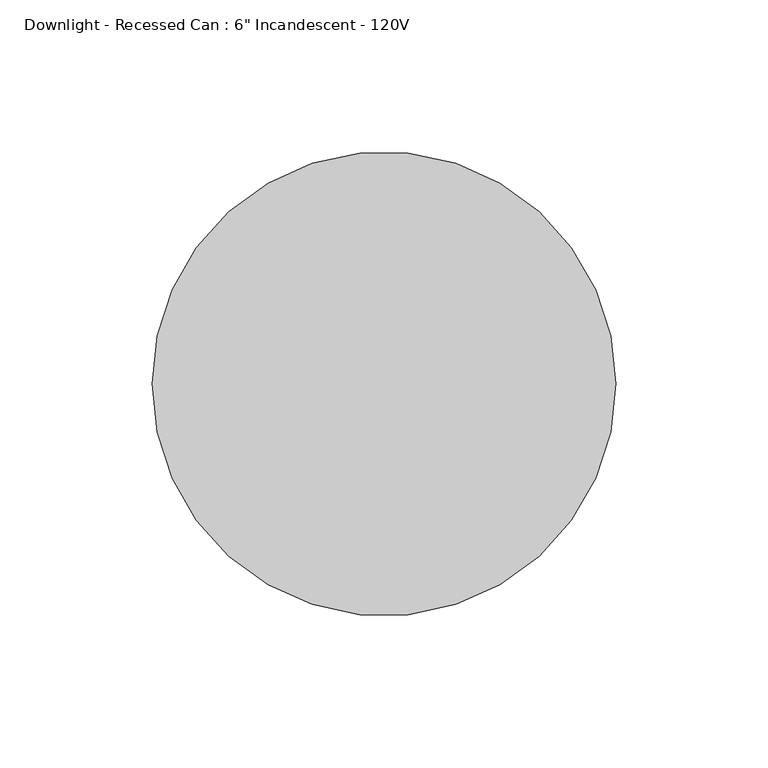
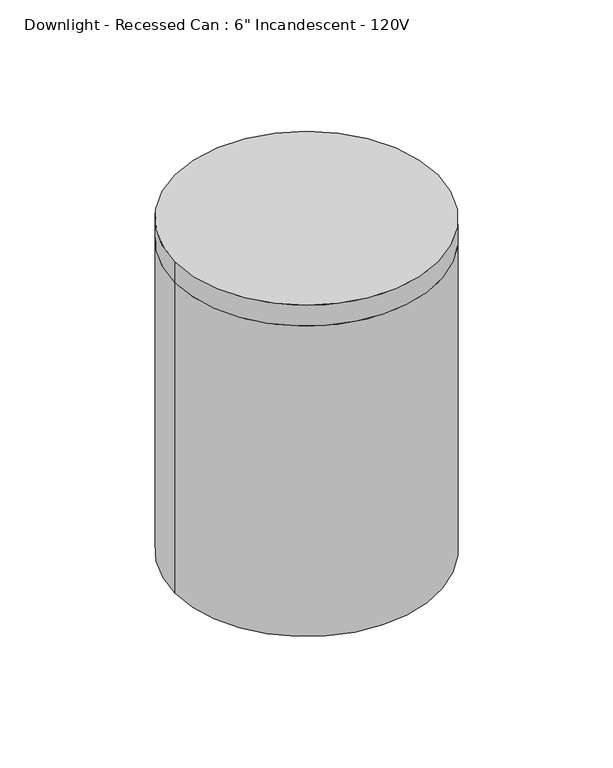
"""IFC4 building model written with IfcOpenShell, lengths in millimetres: light fixture geometry."""

from ifc_helpers import new_model, si_unit, point, frame, origin, origin_2d, place, context, project, spatial, circle_curve, trimmed, segment, composite_curve, outline, extrude, source, transform, mapped, element, save


def light_fixture_5ac0ec6e(model_context):
    return source(origin(), model_context, "Body", "SweptSolid", [
        extrude(outline(composite_curve([segment(trimmed(circle_curve(origin_2d(), 76.2), [point((-76.2, 0.0))], [point((76.2, 0.0))], False, "CARTESIAN"), True, "CONTINUOUS"), segment(trimmed(circle_curve(origin_2d(), 76.2), [point((76.2, 0.0))], [point((-76.2, 0.0))], False, "CARTESIAN"), True, "CONTINUOUS")], self_intersect=False)), frame((0.0, 0.0, 2628.9), z_axis=(0.0, 0.0, 1.0), x_axis=(1.0, 0.0, 0.0)), (0.0, 0.0, 1.0), 12.7),
        extrude(outline(composite_curve([segment(trimmed(circle_curve(origin_2d(), 76.2), [point((-76.2, 0.0))], [point((76.2, 0.0))], False, "CARTESIAN"), True, "CONTINUOUS"), segment(trimmed(circle_curve(origin_2d(), 76.2), [point((76.2, 0.0))], [point((-76.2, 0.0))], False, "CARTESIAN"), True, "CONTINUOUS")], self_intersect=False), holes=[composite_curve([segment(trimmed(circle_curve(origin_2d(), 63.5), [point((-63.5, 0.0))], [point((63.5, 0.0))], True, "CARTESIAN"), True, "CONTINUOUS"), segment(trimmed(circle_curve(origin_2d(), 63.5), [point((63.5, 0.0))], [point((-63.5, 0.0))], True, "CARTESIAN"), True, "CONTINUOUS")], self_intersect=False)]), frame((0.0, 0.0, 2438.4), z_axis=(0.0, 0.0, 1.0), x_axis=(1.0, 0.0, 0.0)), (0.0, 0.0, 1.0), 190.5),
    ])


if __name__ == "__main__":
    model = new_model("IFC4")
    model_context = context("Model", 3, world=origin())
    ifc_project = project(units=[si_unit("LENGTHUNIT", "METRE", prefix="MILLI")], contexts=[model_context])
    site = spatial("IfcSite", under=ifc_project)
    building = spatial("IfcBuilding", under=site)
    placement = place(None, origin())
    light_fixture_shape = light_fixture_5ac0ec6e(model_context)
    element("IfcLightFixture", 1, ObjectType="Downlight - Recessed Can : 6\" Incandescent - 120V", at=placement, inside=building, context=model_context, shape_type="MappedRepresentation", body=[
        mapped(light_fixture_shape, transform((0.0, 0.0, 0.0), x_axis=(1.0, 0.0, 0.0), y_axis=(0.0, 1.0, 0.0), z_axis=(0.0, 0.0, 1.0))),
    ])
    save(model, "model.ifc")
